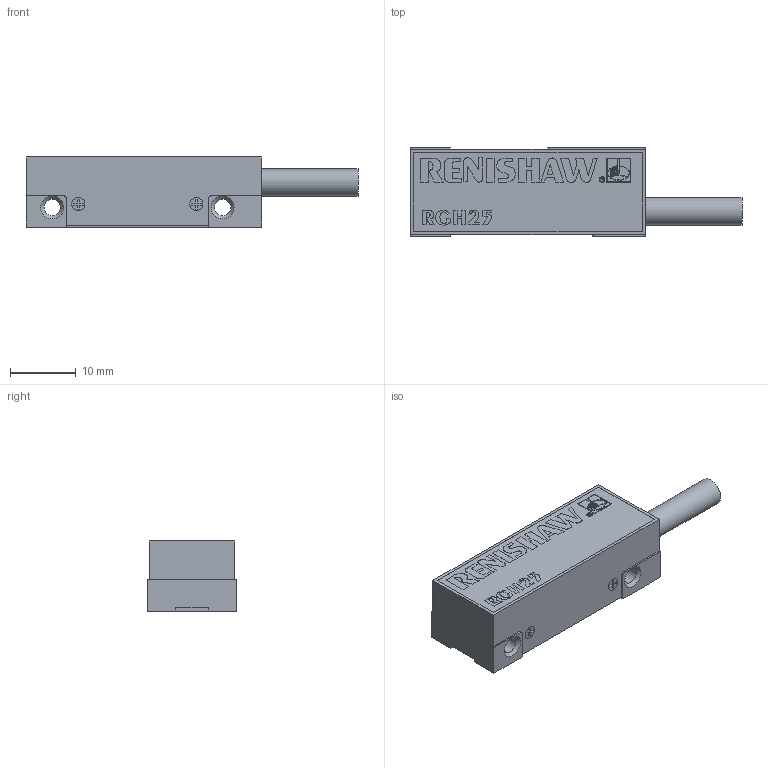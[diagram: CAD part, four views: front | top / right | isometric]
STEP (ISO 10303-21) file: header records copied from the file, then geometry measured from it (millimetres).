
FILE_DESCRIPTION(/* description */ (''),/* implementation_level */ '2;1');
FILE_NAME(/* name */ 'LA-9517-4804.STP203',/* time_stamp */ '2007-06-13T14:16:56+01:00',/* author */ (''),/* organization */ (''),/* preprocessor_version */ 'ST-DEVELOPER v9',/* originating_system */ 'UGS - NX 3.0',/* authorisation */ '');
FILE_SCHEMA (('CONFIG_CONTROL_DESIGN'));
Length unit declared in the file: millimetre
Products named in the file (1): lm116CB3kc21
Bounding box: 50.65 x 13.5 x 10.7 mm (x, y, z)
Volume: 5033.7 mm3; surface area: 2473 mm2
Topology: 1 solids, 1 shells, 436 faces, 1181 edges, 786 vertices
Faces by surface type: plane 300, extrusion 119, cylinder 13, cone 4
Full cylindrical faces by diameter (mm): 1.805 x1, 2 x3, 2.5 x2, 4.2 x1
Entity records: 13835 total; most frequent: CARTESIAN_POINT 3238, ORIENTED_EDGE 2334, DIRECTION 1714, EDGE_CURVE 1167, VECTOR 1014, LINE 895, VERTEX_POINT 784, EDGE_LOOP 493
